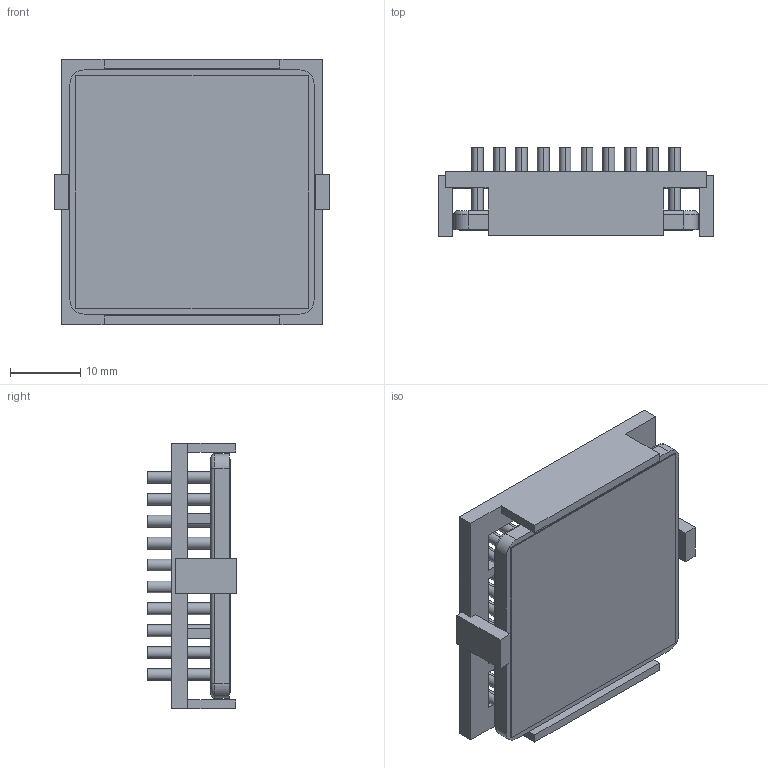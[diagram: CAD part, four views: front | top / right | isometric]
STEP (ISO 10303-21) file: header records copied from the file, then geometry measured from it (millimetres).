
FILE_DESCRIPTION (( 'STEP AP214' ), '1' );
FILE_NAME ('INM35002-12PCU-2.6O.STEP', '2023-02-28T22:49:17', ( '' ), ( '' ), 'SwSTEP 2.0', 'SolidWorks 2020', '' );
FILE_SCHEMA (( 'AUTOMOTIVE_DESIGN' ));
Length unit declared in the file: inch
Products named in the file (1): INM35002-12PCU-2.6O
Bounding box: 39.2 x 12.6 x 37.7 mm (x, y, z)
Volume: 6915.3 mm3; surface area: 12083.9 mm2
Topology: 3 solids, 3 shells, 354 faces, 760 edges, 504 vertices
Faces by surface type: cylinder 192, plane 158, torus 4
Entity records: 14416 total; most frequent: DIRECTION 1858, CARTESIAN_POINT 1619, ORIENTED_EDGE 1520, EDGE_CURVE 760, AXIS2_PLACEMENT_3D 743, VERTEX_POINT 504, EDGE_LOOP 448, CIRCLE 388
